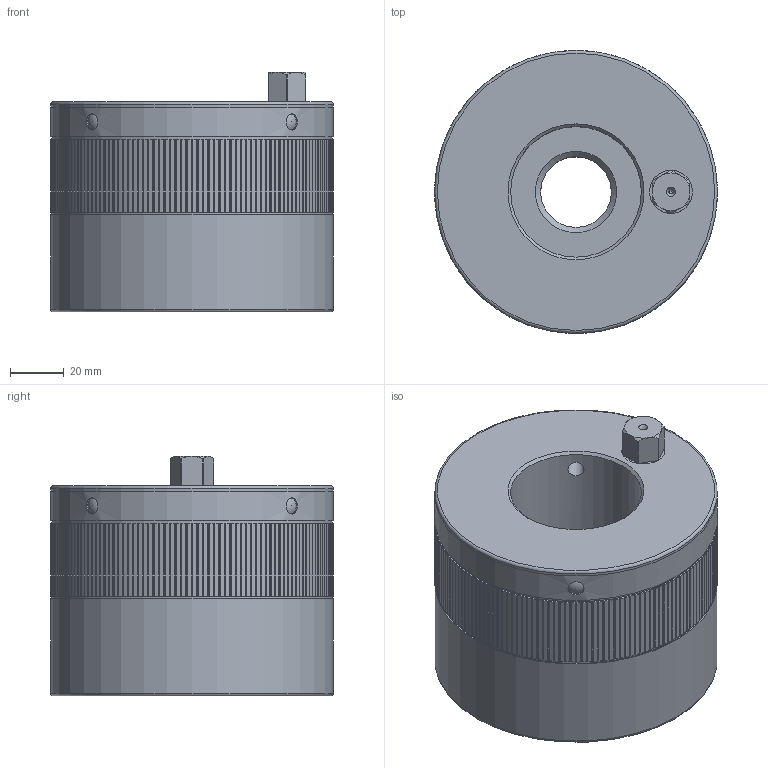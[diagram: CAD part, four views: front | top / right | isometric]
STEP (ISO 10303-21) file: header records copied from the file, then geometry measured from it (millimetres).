
FILE_DESCRIPTION(/* description */ ('Unknown','CAx-IF Rec.Pracs.---Representation and Presentation of Product Manufacturing Information (PMI)---4.0---2014-10-13','CAx-IF Rec.Pracs.---3D Tessellated Geometry---0.4---2014-09-14','2;1'),/* implementation_level */ '2;1');
FILE_NAME(/* name */ 'MDA 180_SW14_M30',/* time_stamp */ '2023-09-15T11:09:11+02:00',/* author */ ('Unknown'),/* organization */ ('Unknown'),/* preprocessor_version */ 'ST-DEVELOPER v18.102',/* originating_system */ 'Solid Edge',/* authorisation */ 'Unknown');
FILE_SCHEMA (('AP242_MANAGED_MODEL_BASED_3D_ENGINEERING_MIM_LF { 1 0 10303 442 1 1 4 }'));
Length unit declared in the file: millimetre
Products named in the file (7): 05933053; 43733051; 42231918; KT100003; 46432086; KT100869; 46331258
Assembly tree (9 placements, depth 2):
  05933053
    43733051
    42231918
    KT100003  x4
    46432086
    KT100869
    46331258
Bounding box: 105 x 105 x 89 mm (x, y, z)
Volume: 516427.3 mm3; surface area: 143002.1 mm2
Topology: 9 solids, 9 shells, 617 faces, 1758 edges, 1160 vertices
Faces by surface type: plane 354, cylinder 205, cone 36, torus 10, sphere 8, bspline 4
Full cylindrical faces by diameter (mm): 1.6 x2, 6 x12, 16 x2, 16.5 x1, 26.211 x1, 48.5 x1, 62 x3, 83.2 x1, 88 x1, 90 x1, 95.5 x1, 95.9 x1, 96 x3, 104 x2, 105 x3
Entity records: 19831 total; most frequent: CARTESIAN_POINT 3917, ORIENTED_EDGE 3254, DIRECTION 3250, EDGE_CURVE 1627, LINE 1154, VECTOR 1154, VERTEX_POINT 1117, AXIS2_PLACEMENT_3D 1048
